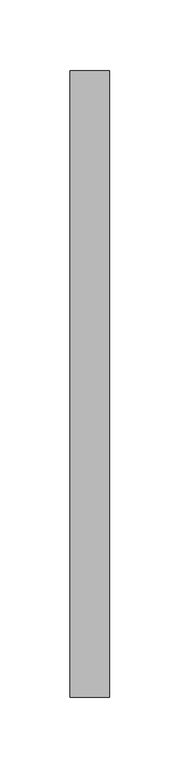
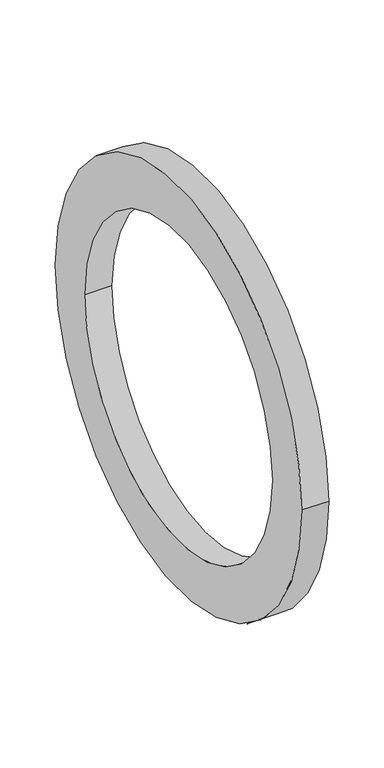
"""IFC4 building model written with IfcOpenShell, lengths in millimetres: pipe fitting geometry, NIRON accesorio brida : Estándar."""

import ifcopenshell
import ifcopenshell.guid

model = None  # the IFC model being written
_history = None  # IfcOwnerHistory: only IFC2X3 demands one
_inside = {}  # id of a spatial element -> (the spatial element, [elements in it])
_under = {}  # id of a project, library or spatial element -> (it, [spatial elements below it])
_declared = {}  # id of a project -> (the project, [libraries it declares])
_typed = {}  # id of a type object -> (the type object, [elements of that type])
_made_of = {}  # id of a material, layer set ... -> (it, [elements and type objects made of it])


def new_model(schema):
    """Start an empty IFC model of exactly this schema.

    Asked for "IFC4X3", IfcOpenShell would pick the latest addendum, in which some entities
    have other attributes; the version numbers below select the first issue.
    IFC2X3 requires an IfcOwnerHistory on every rooted entity: one is made here for all.
    """
    global model, _history
    if schema == "IFC4X3":
        model = ifcopenshell.file(schema_version=(4, 3, 0, 0))
    else:
        model = ifcopenshell.file(schema=schema)
    _inside.clear()
    _under.clear()
    _declared.clear()
    _typed.clear()
    _made_of.clear()
    _history = None
    if model.schema == "IFC2X3":
        org = make("IfcOrganization", Name="unknown")
        user = make(
            "IfcPersonAndOrganization",
            ThePerson=make("IfcPerson", FamilyName="unknown"),
            TheOrganization=org,
        )
        app = make(
            "IfcApplication",
            ApplicationDeveloper=org,
            Version="unknown",
            ApplicationFullName="unknown",
            ApplicationIdentifier="unknown",
        )
        _history = make(
            "IfcOwnerHistory",
            OwningUser=user,
            OwningApplication=app,
            ChangeAction="ADDED",
            CreationDate=0,
        )
    return model


def make(cls, **values):
    """One entity of the class cls with the attributes given. An attribute that is None is left unset."""
    return model.create_entity(
        cls, **{name: value for name, value in values.items() if value is not None}
    )


def rooted(cls, **values):
    """An entity with a GlobalId (a new one), such as an element, a storey or a relation."""
    return make(cls, GlobalId=ifcopenshell.guid.new(), OwnerHistory=_history, **values)


def si_unit(unit_type, name, prefix=None):
    """IfcSIUnit, for example si_unit("LENGTHUNIT", "METRE", prefix="MILLI")."""
    return make("IfcSIUnit", UnitType=unit_type, Prefix=prefix, Name=name)


def assignment(units):
    """IfcUnitAssignment: the units of a project."""
    return None if units is None else make("IfcUnitAssignment", Units=units)


def point(xyz):
    """IfcCartesianPoint."""
    return None if xyz is None else make("IfcCartesianPoint", Coordinates=xyz)


def direction(xyz):
    """IfcDirection."""
    return None if xyz is None else make("IfcDirection", DirectionRatios=xyz)


def frame(location, z_axis=None, x_axis=None):
    """IfcAxis2Placement3D, a coordinate frame: its origin and axes. An axis left out is left unset."""
    return make(
        "IfcAxis2Placement3D",
        Location=point(location),
        Axis=direction(z_axis),
        RefDirection=direction(x_axis),
    )


def frame_2d(location, x_axis=None):
    """IfcAxis2Placement2D, a coordinate frame in the plane: its origin and x axis."""
    return make(
        "IfcAxis2Placement2D", Location=point(location), RefDirection=direction(x_axis)
    )


def origin():
    """The frame at (0, 0, 0) with its axes left unset."""
    return frame((0.0, 0.0, 0.0))


def origin_2d():
    """The frame at (0, 0) in the plane with its x axis left unset."""
    return frame_2d((0.0, 0.0))


def place(relative_to, where):
    """IfcLocalPlacement: puts the frame where relative to a parent placement (None: the world)."""
    return make(
        "IfcLocalPlacement", PlacementRelTo=relative_to, RelativePlacement=where
    )


def context(
    kind, dimensions, precision=None, world=None, true_north=None, identifier=None
):
    """IfcGeometricRepresentationContext, for example the 3D "Model" context."""
    return make(
        "IfcGeometricRepresentationContext",
        ContextIdentifier=identifier,
        ContextType=kind,
        CoordinateSpaceDimension=dimensions,
        Precision=precision,
        WorldCoordinateSystem=world,
        TrueNorth=true_north,
    )


def project(units=None, contexts=None):
    """IfcProject with its units and contexts."""
    return rooted(
        "IfcProject",
        Name="project",
        RepresentationContexts=contexts,
        UnitsInContext=assignment(units),
    )


def spatial(cls, under=None, at=None, **own):
    """A site, building, storey or space (cls), placed at a placement, below another one or the project."""
    s = rooted(cls, ObjectPlacement=at, **own)
    if under is not None:
        _under.setdefault(under.id(), (under, []))[1].append(s)
    return s


def circle_curve(where, radius):
    """IfcCircle in the frame where."""
    return make("IfcCircle", Position=where, Radius=radius)


def trimmed(basis, trim1, trim2, sense, master):
    """IfcTrimmedCurve: the piece of a basis curve between two trims."""
    return make(
        "IfcTrimmedCurve",
        BasisCurve=basis,
        Trim1=trim1,
        Trim2=trim2,
        SenseAgreement=sense,
        MasterRepresentation=master,
    )


def segment(curve, same_sense, transition):
    """IfcCompositeCurveSegment."""
    return make(
        "IfcCompositeCurveSegment",
        Transition=transition,
        SameSense=same_sense,
        ParentCurve=curve,
    )


def composite_curve(segments, self_intersect=None):
    """IfcCompositeCurve: segments joined end to end."""
    return make("IfcCompositeCurve", Segments=segments, SelfIntersect=self_intersect)


def outline(outer, holes=None, kind="AREA"):
    """IfcArbitraryClosedProfileDef: a profile drawn as a closed curve; with holes, ...WithVoids."""
    if holes is None:
        return make("IfcArbitraryClosedProfileDef", ProfileType=kind, OuterCurve=outer)
    return make(
        "IfcArbitraryProfileDefWithVoids",
        ProfileType=kind,
        OuterCurve=outer,
        InnerCurves=holes,
    )


def extrude(swept, where, along, depth):
    """IfcExtrudedAreaSolid: the profile swept, set in the frame where, extruded along a direction by depth."""
    return make(
        "IfcExtrudedAreaSolid",
        SweptArea=swept,
        Position=where,
        ExtrudedDirection=direction(along),
        Depth=depth,
    )


def shape(context_of_items, identifier, shape_type, items):
    """IfcShapeRepresentation: the items that make up one representation, for example the "Body"."""
    return make(
        "IfcShapeRepresentation",
        ContextOfItems=context_of_items,
        RepresentationIdentifier=identifier,
        RepresentationType=shape_type,
        Items=items,
    )


def source(mapping_origin, context_of_items, identifier, shape_type, items):
    """IfcRepresentationMap: a shape defined once, which mapped items show again and again."""
    return make(
        "IfcRepresentationMap",
        MappingOrigin=mapping_origin,
        MappedRepresentation=shape(context_of_items, identifier, shape_type, items),
    )


def transform(
    local_origin,
    x_axis=None,
    y_axis=None,
    z_axis=None,
    scale=None,
    scale2=None,
    scale3=None,
    uniform=True,
):
    """IfcCartesianTransformationOperator3D, or its non-uniform kind. x_axis, y_axis, z_axis: its Axis1, 2, 3."""
    if uniform:
        return make(
            "IfcCartesianTransformationOperator3D",
            Axis1=direction(x_axis),
            Axis2=direction(y_axis),
            LocalOrigin=point(local_origin),
            Scale=scale,
            Axis3=direction(z_axis),
        )
    return make(
        "IfcCartesianTransformationOperator3DnonUniform",
        Axis1=direction(x_axis),
        Axis2=direction(y_axis),
        LocalOrigin=point(local_origin),
        Scale=scale,
        Axis3=direction(z_axis),
        Scale2=scale2,
        Scale3=scale3,
    )


def mapped(mapping_source, mapping_target):
    """IfcMappedItem: shows the shape of a source again, moved by a transform."""
    return make(
        "IfcMappedItem", MappingSource=mapping_source, MappingTarget=mapping_target
    )


def made_of(thing, what):
    """Note that an element or type object is made of a material, layer set ...; save() writes the relation."""
    if what is not None:
        _made_of.setdefault(what.id(), (what, []))[1].append(thing)
    return thing


def element(
    cls,
    number,
    at=None,
    inside=None,
    cuts=None,
    type_object=None,
    material=None,
    context=None,
    identifier="Body",
    shape_type=None,
    held_by="IfcProductDefinitionShape",
    body=None,
    shapes=None,
    **own,
):
    """One element of the class cls, such as IfcWall. Its Tag is "e" and its number.

    at: its placement. inside: the storey or other place that contains it. cuts: it is an
    opening in that element (IfcRelVoidsElement). A single representation is given by context,
    identifier, shape_type and body (its items); several are given by shapes. held_by: the class
    of the entity that holds the representations. save() writes the other relations.
    """
    e = rooted(cls, Tag="e%d" % number, ObjectPlacement=at, **own)
    if body is not None:
        shapes = [shape(context, identifier, shape_type, body)]
    if shapes is not None:
        e.Representation = make(held_by, Representations=shapes)
    if inside is not None:
        _inside.setdefault(inside.id(), (inside, []))[1].append(e)
    if cuts is not None:
        rooted(
            "IfcRelVoidsElement", RelatingBuildingElement=cuts, RelatedOpeningElement=e
        )
    if type_object is not None:
        _typed.setdefault(type_object.id(), (type_object, []))[1].append(e)
    return made_of(e, material)


def aggregate(whole, parts):
    """IfcRelAggregates: a whole, such as a stair, and the parts it consists of."""
    return rooted("IfcRelAggregates", RelatingObject=whole, RelatedObjects=parts)


def save(model, path):
    """Write the relations noted so far, then the file.

    IfcRelAggregates (storeys below a building ...), IfcRelContainedInSpatialStructure (elements
    in a storey), IfcRelDefinesByType, IfcRelAssociatesMaterial and IfcRelDeclares: one each for
    every whole, place, type object, material and project.
    """
    for whole, parts in _under.values():
        aggregate(whole, parts)
    for where, things in _inside.values():
        rooted(
            "IfcRelContainedInSpatialStructure",
            RelatedElements=things,
            RelatingStructure=where,
        )
    for kind, things in _typed.values():
        rooted("IfcRelDefinesByType", RelatedObjects=things, RelatingType=kind)
    for what, things in _made_of.values():
        rooted("IfcRelAssociatesMaterial", RelatedObjects=things, RelatingMaterial=what)
    for by, libraries in _declared.values():
        rooted("IfcRelDeclares", RelatingContext=by, RelatedDefinitions=libraries)
    model.write(path)


def pipe_fitting_1c54a66b(model_context):
    return source(origin(), model_context, "Body", "SweptSolid", [
        extrude(outline(composite_curve([segment(trimmed(circle_curve(origin_2d(), 222.5), [point((222.5, 0.0))], [point((-222.5, 0.0))], False, "CARTESIAN"), True, "CONTINUOUS"), segment(trimmed(circle_curve(origin_2d(), 222.5), [point((-222.5, 0.0))], [point((222.5, 0.0))], False, "CARTESIAN"), True, "CONTINUOUS")], self_intersect=False), holes=[composite_curve([segment(trimmed(circle_curve(origin_2d(), 169.0), [point((169.0, 0.0))], [point((-169.0, 0.0))], True, "CARTESIAN"), True, "CONTINUOUS"), segment(trimmed(circle_curve(origin_2d(), 169.0), [point((-169.0, 0.0))], [point((169.0, 0.0))], True, "CARTESIAN"), True, "CONTINUOUS")], self_intersect=False)]), frame((2.4830127, 0.0, 0.0), z_axis=(1.0, 0.0, 0.0), x_axis=(0.0, 1.0, 0.0)), (0.0, 0.0, 1.0), 28.0),
    ])


if __name__ == "__main__":
    model = new_model("IFC4")
    model_context = context("Model", 3, world=origin())
    ifc_project = project(units=[si_unit("LENGTHUNIT", "METRE", prefix="MILLI")], contexts=[model_context])
    site = spatial("IfcSite", under=ifc_project)
    building = spatial("IfcBuilding", under=site)
    placement = place(None, origin())
    pipe_fitting_shape = pipe_fitting_1c54a66b(model_context)
    element("IfcPipeFitting", 1, ObjectType="NIRON accesorio brida : Estándar", at=placement, inside=building, context=model_context, shape_type="MappedRepresentation", body=[
        mapped(pipe_fitting_shape, transform((0.0, 0.0, 0.0), x_axis=(1.0, 0.0, 0.0), y_axis=(0.0, 1.0, 0.0), z_axis=(0.0, 0.0, 1.0))),
    ])
    save(model, "model.ifc")
